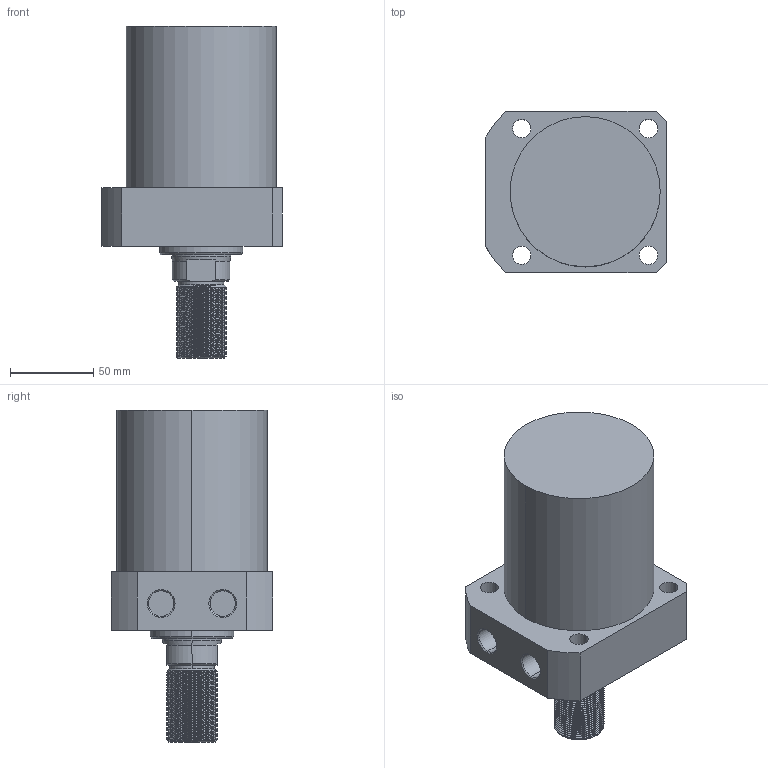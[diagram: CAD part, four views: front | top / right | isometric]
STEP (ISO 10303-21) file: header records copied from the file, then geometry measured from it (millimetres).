
FILE_DESCRIPTION (( 'STEP AP214' ), '1' );
FILE_NAME ('CLLR-090CT-075.STEP', '2020-01-09T06:55:56', ( 'Windows' ), ( 'Microsoft' ), 'SwSTEP 2.0', 'SolidWorks 2015', '' );
FILE_SCHEMA (( 'AUTOMOTIVE_DESIGN' ));
Length unit declared in the file: millimetre
Products named in the file (1): CLLR-090CT-075
Bounding box: 108 x 97 x 199 mm (x, y, z)
Volume: 1009318.2 mm3; surface area: 77179.3 mm2
Topology: 1 solids, 1 shells, 124 faces, 329 edges, 215 vertices
Faces by surface type: cylinder 87, plane 20, cone 15, bspline 2
Entity records: 6990 total; most frequent: CARTESIAN_POINT 4164, ORIENTED_EDGE 658, DIRECTION 523, EDGE_CURVE 329, VERTEX_POINT 215, AXIS2_PLACEMENT_3D 200, EDGE_LOOP 140, ADVANCED_FACE 124
